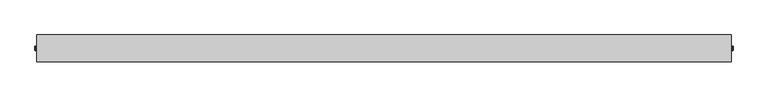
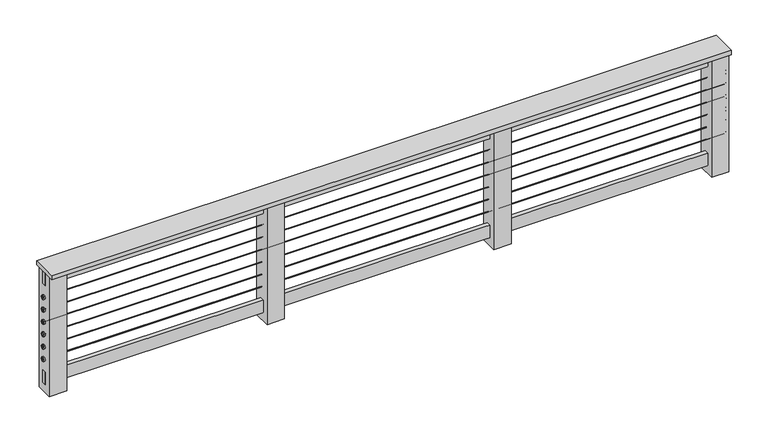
"""IFC4 building model written with IfcOpenShell, lengths in millimetres: railing geometry, HandiSwage Cable Railing System Flat."""

import ifcopenshell
import ifcopenshell.guid

model = None  # the IFC model being written
_history = None  # IfcOwnerHistory: only IFC2X3 demands one
_inside = {}  # id of a spatial element -> (the spatial element, [elements in it])
_under = {}  # id of a project, library or spatial element -> (it, [spatial elements below it])
_declared = {}  # id of a project -> (the project, [libraries it declares])
_typed = {}  # id of a type object -> (the type object, [elements of that type])
_made_of = {}  # id of a material, layer set ... -> (it, [elements and type objects made of it])


def new_model(schema):
    """Start an empty IFC model of exactly this schema.

    Asked for "IFC4X3", IfcOpenShell would pick the latest addendum, in which some entities
    have other attributes; the version numbers below select the first issue.
    IFC2X3 requires an IfcOwnerHistory on every rooted entity: one is made here for all.
    """
    global model, _history
    if schema == "IFC4X3":
        model = ifcopenshell.file(schema_version=(4, 3, 0, 0))
    else:
        model = ifcopenshell.file(schema=schema)
    _inside.clear()
    _under.clear()
    _declared.clear()
    _typed.clear()
    _made_of.clear()
    _history = None
    if model.schema == "IFC2X3":
        org = make("IfcOrganization", Name="unknown")
        user = make(
            "IfcPersonAndOrganization",
            ThePerson=make("IfcPerson", FamilyName="unknown"),
            TheOrganization=org,
        )
        app = make(
            "IfcApplication",
            ApplicationDeveloper=org,
            Version="unknown",
            ApplicationFullName="unknown",
            ApplicationIdentifier="unknown",
        )
        _history = make(
            "IfcOwnerHistory",
            OwningUser=user,
            OwningApplication=app,
            ChangeAction="ADDED",
            CreationDate=0,
        )
    return model


def make(cls, **values):
    """One entity of the class cls with the attributes given. An attribute that is None is left unset."""
    return model.create_entity(
        cls, **{name: value for name, value in values.items() if value is not None}
    )


def rooted(cls, **values):
    """An entity with a GlobalId (a new one), such as an element, a storey or a relation."""
    return make(cls, GlobalId=ifcopenshell.guid.new(), OwnerHistory=_history, **values)


def si_unit(unit_type, name, prefix=None):
    """IfcSIUnit, for example si_unit("LENGTHUNIT", "METRE", prefix="MILLI")."""
    return make("IfcSIUnit", UnitType=unit_type, Prefix=prefix, Name=name)


def assignment(units):
    """IfcUnitAssignment: the units of a project."""
    return None if units is None else make("IfcUnitAssignment", Units=units)


def point(xyz):
    """IfcCartesianPoint."""
    return None if xyz is None else make("IfcCartesianPoint", Coordinates=xyz)


def direction(xyz):
    """IfcDirection."""
    return None if xyz is None else make("IfcDirection", DirectionRatios=xyz)


def frame(location, z_axis=None, x_axis=None):
    """IfcAxis2Placement3D, a coordinate frame: its origin and axes. An axis left out is left unset."""
    return make(
        "IfcAxis2Placement3D",
        Location=point(location),
        Axis=direction(z_axis),
        RefDirection=direction(x_axis),
    )


def frame_2d(location, x_axis=None):
    """IfcAxis2Placement2D, a coordinate frame in the plane: its origin and x axis."""
    return make(
        "IfcAxis2Placement2D", Location=point(location), RefDirection=direction(x_axis)
    )


def origin():
    """The frame at (0, 0, 0) with its axes left unset."""
    return frame((0.0, 0.0, 0.0))


def origin_with_axes():
    """The frame at (0, 0, 0) with the z axis (0, 0, 1) and the x axis (1, 0, 0) written out."""
    return frame((0.0, 0.0, 0.0), z_axis=(0.0, 0.0, 1.0), x_axis=(1.0, 0.0, 0.0))


def place(relative_to, where):
    """IfcLocalPlacement: puts the frame where relative to a parent placement (None: the world)."""
    return make(
        "IfcLocalPlacement", PlacementRelTo=relative_to, RelativePlacement=where
    )


def context(
    kind, dimensions, precision=None, world=None, true_north=None, identifier=None
):
    """IfcGeometricRepresentationContext, for example the 3D "Model" context."""
    return make(
        "IfcGeometricRepresentationContext",
        ContextIdentifier=identifier,
        ContextType=kind,
        CoordinateSpaceDimension=dimensions,
        Precision=precision,
        WorldCoordinateSystem=world,
        TrueNorth=true_north,
    )


def project(units=None, contexts=None):
    """IfcProject with its units and contexts."""
    return rooted(
        "IfcProject",
        Name="project",
        RepresentationContexts=contexts,
        UnitsInContext=assignment(units),
    )


def spatial(cls, under=None, at=None, **own):
    """A site, building, storey or space (cls), placed at a placement, below another one or the project."""
    s = rooted(cls, ObjectPlacement=at, **own)
    if under is not None:
        _under.setdefault(under.id(), (under, []))[1].append(s)
    return s


def polyline(points):
    """IfcPolyline through the points."""
    return make("IfcPolyline", Points=[point(p) for p in points])


def circle_curve(where, radius):
    """IfcCircle in the frame where."""
    return make("IfcCircle", Position=where, Radius=radius)


def ellipse_curve(where, semi_axis1, semi_axis2):
    """IfcEllipse in the frame where."""
    return make(
        "IfcEllipse", Position=where, SemiAxis1=semi_axis1, SemiAxis2=semi_axis2
    )


def trimmed(basis, trim1, trim2, sense, master):
    """IfcTrimmedCurve: the piece of a basis curve between two trims."""
    return make(
        "IfcTrimmedCurve",
        BasisCurve=basis,
        Trim1=trim1,
        Trim2=trim2,
        SenseAgreement=sense,
        MasterRepresentation=master,
    )


def segment(curve, same_sense, transition):
    """IfcCompositeCurveSegment."""
    return make(
        "IfcCompositeCurveSegment",
        Transition=transition,
        SameSense=same_sense,
        ParentCurve=curve,
    )


def composite_curve(segments, self_intersect=None):
    """IfcCompositeCurve: segments joined end to end."""
    return make("IfcCompositeCurve", Segments=segments, SelfIntersect=self_intersect)


def outline(outer, holes=None, kind="AREA"):
    """IfcArbitraryClosedProfileDef: a profile drawn as a closed curve; with holes, ...WithVoids."""
    if holes is None:
        return make("IfcArbitraryClosedProfileDef", ProfileType=kind, OuterCurve=outer)
    return make(
        "IfcArbitraryProfileDefWithVoids",
        ProfileType=kind,
        OuterCurve=outer,
        InnerCurves=holes,
    )


def extrude(swept, where, along, depth):
    """IfcExtrudedAreaSolid: the profile swept, set in the frame where, extruded along a direction by depth."""
    return make(
        "IfcExtrudedAreaSolid",
        SweptArea=swept,
        Position=where,
        ExtrudedDirection=direction(along),
        Depth=depth,
    )


def shape(context_of_items, identifier, shape_type, items):
    """IfcShapeRepresentation: the items that make up one representation, for example the "Body"."""
    return make(
        "IfcShapeRepresentation",
        ContextOfItems=context_of_items,
        RepresentationIdentifier=identifier,
        RepresentationType=shape_type,
        Items=items,
    )


def source(mapping_origin, context_of_items, identifier, shape_type, items):
    """IfcRepresentationMap: a shape defined once, which mapped items show again and again."""
    return make(
        "IfcRepresentationMap",
        MappingOrigin=mapping_origin,
        MappedRepresentation=shape(context_of_items, identifier, shape_type, items),
    )


def transform(
    local_origin,
    x_axis=None,
    y_axis=None,
    z_axis=None,
    scale=None,
    scale2=None,
    scale3=None,
    uniform=True,
):
    """IfcCartesianTransformationOperator3D, or its non-uniform kind. x_axis, y_axis, z_axis: its Axis1, 2, 3."""
    if uniform:
        return make(
            "IfcCartesianTransformationOperator3D",
            Axis1=direction(x_axis),
            Axis2=direction(y_axis),
            LocalOrigin=point(local_origin),
            Scale=scale,
            Axis3=direction(z_axis),
        )
    return make(
        "IfcCartesianTransformationOperator3DnonUniform",
        Axis1=direction(x_axis),
        Axis2=direction(y_axis),
        LocalOrigin=point(local_origin),
        Scale=scale,
        Axis3=direction(z_axis),
        Scale2=scale2,
        Scale3=scale3,
    )


def mapped(mapping_source, mapping_target):
    """IfcMappedItem: shows the shape of a source again, moved by a transform."""
    return make(
        "IfcMappedItem", MappingSource=mapping_source, MappingTarget=mapping_target
    )


def made_of(thing, what):
    """Note that an element or type object is made of a material, layer set ...; save() writes the relation."""
    if what is not None:
        _made_of.setdefault(what.id(), (what, []))[1].append(thing)
    return thing


def element(
    cls,
    number,
    at=None,
    inside=None,
    cuts=None,
    type_object=None,
    material=None,
    context=None,
    identifier="Body",
    shape_type=None,
    held_by="IfcProductDefinitionShape",
    body=None,
    shapes=None,
    **own,
):
    """One element of the class cls, such as IfcWall. Its Tag is "e" and its number.

    at: its placement. inside: the storey or other place that contains it. cuts: it is an
    opening in that element (IfcRelVoidsElement). A single representation is given by context,
    identifier, shape_type and body (its items); several are given by shapes. held_by: the class
    of the entity that holds the representations. save() writes the other relations.
    """
    e = rooted(cls, Tag="e%d" % number, ObjectPlacement=at, **own)
    if body is not None:
        shapes = [shape(context, identifier, shape_type, body)]
    if shapes is not None:
        e.Representation = make(held_by, Representations=shapes)
    if inside is not None:
        _inside.setdefault(inside.id(), (inside, []))[1].append(e)
    if cuts is not None:
        rooted(
            "IfcRelVoidsElement", RelatingBuildingElement=cuts, RelatedOpeningElement=e
        )
    if type_object is not None:
        _typed.setdefault(type_object.id(), (type_object, []))[1].append(e)
    return made_of(e, material)


def aggregate(whole, parts):
    """IfcRelAggregates: a whole, such as a stair, and the parts it consists of."""
    return rooted("IfcRelAggregates", RelatingObject=whole, RelatedObjects=parts)


def save(model, path):
    """Write the relations noted so far, then the file.

    IfcRelAggregates (storeys below a building ...), IfcRelContainedInSpatialStructure (elements
    in a storey), IfcRelDefinesByType, IfcRelAssociatesMaterial and IfcRelDeclares: one each for
    every whole, place, type object, material and project.
    """
    for whole, parts in _under.values():
        aggregate(whole, parts)
    for where, things in _inside.values():
        rooted(
            "IfcRelContainedInSpatialStructure",
            RelatedElements=things,
            RelatingStructure=where,
        )
    for kind, things in _typed.values():
        rooted("IfcRelDefinesByType", RelatedObjects=things, RelatingType=kind)
    for what, things in _made_of.values():
        rooted("IfcRelAssociatesMaterial", RelatedObjects=things, RelatingMaterial=what)
    for by, libraries in _declared.values():
        rooted("IfcRelDeclares", RelatingContext=by, RelatedDefinitions=libraries)
    model.write(path)


def plane_surface(at):
    """IfcPlane: the flat surface through the origin of the frame at, square to its z axis."""
    return make("IfcPlane", Position=at)


def cylinder_surface(at, radius):
    """IfcCylindricalSurface: all points at the distance radius from the z axis of the frame at."""
    return make("IfcCylindricalSurface", Position=at, Radius=radius)


def revolved_surface(curve, axis_point, axis_direction):
    """IfcSurfaceOfRevolution: the curve turned about the line through axis_point along axis_direction."""
    return make(
        "IfcSurfaceOfRevolution",
        SweptCurve=make("IfcArbitraryOpenProfileDef", ProfileType="CURVE", Curve=curve),
        AxisPosition=make("IfcAxis1Placement", Location=point(axis_point), Axis=direction(axis_direction)),
    )


def advanced_brep(points, edges, surfaces, faces):
    """IfcAdvancedBrep: a solid bounded by faces that lie on surfaces and meet in shared edges.

    An edge is (start, end): straight between two places in points (the first is 0);
    or (start, end, curve); or (start, end, curve, False) where it runs against its curve.
    A face is (place in surfaces, loops), or (place, loops, False) where it looks against
    its surface's normal. A loop lists edges by number (the first is 1), with a minus sign
    where the edge is run from its end to its start. The first loop is the outer one.
    """
    corners = [point(p) for p in points]
    vertices = [make("IfcVertexPoint", VertexGeometry=c) for c in corners]
    made = []
    for start, end, *more in edges:
        made.append(
            make(
                "IfcEdgeCurve",
                EdgeStart=vertices[start],
                EdgeEnd=vertices[end],
                EdgeGeometry=more[0] if more else make("IfcPolyline", Points=[corners[start], corners[end]]),
                SameSense=more[1] if len(more) > 1 else True,
            )
        )
    hull = []
    for where, loops, *sense in faces:
        bounds = []
        for j, loop in enumerate(loops):
            ring = [make("IfcOrientedEdge", EdgeElement=made[abs(k) - 1], Orientation=k > 0) for k in loop]
            bounds.append(
                make(
                    "IfcFaceOuterBound" if j == 0 else "IfcFaceBound",
                    Bound=make("IfcEdgeLoop", EdgeList=ring),
                    Orientation=True,
                )
            )
        hull.append(make("IfcAdvancedFace", Bounds=bounds, FaceSurface=surfaces[where], SameSense=sense[0] if sense else True))
    return make("IfcAdvancedBrep", Outer=make("IfcClosedShell", CfsFaces=hull))


def railing_a0584a1e(model_context):
    return source(origin(), model_context, "Body", "SolidModel", [
        extrude(outline(polyline([(-7619.7788687, -3155.4327249), (-7619.7788687, -3003.0327249), (-3657.3788687, -3003.0327249), (-3657.3788687, -3155.4327249), (-7619.7788687, -3155.4327249)])), frame((0.0, 0.0, 736.6), z_axis=(0.0, 0.0, 1.0), x_axis=(1.0, 0.0, 0.0)), (0.0, 0.0, 1.0), 25.4),
        extrude(outline(polyline([(-7619.7788687, -3091.9327249), (-7619.7788687, -3066.5327249), (-3657.3788687, -3066.5327249), (-3657.3788687, -3091.9327249), (-7619.7788687, -3091.9327249)])), frame((0.0, 0.0, 660.4), z_axis=(0.0, 0.0, 1.0), x_axis=(1.0, 0.0, 0.0)), (0.0, 0.0, 1.0), 76.2),
        extrude(outline(composite_curve([segment(trimmed(circle_curve(frame_2d((-3079.2327249, 584.2)), 1.5379197), [point((-3077.6948051, 584.2))], [point((-3080.7706446, 584.2))], False, "CARTESIAN"), True, "CONTINUOUS"), segment(trimmed(circle_curve(frame_2d((-3079.2327249, 584.2)), 1.5379197), [point((-3080.7706446, 584.2))], [point((-3077.6948051, 584.2))], False, "CARTESIAN"), True, "CONTINUOUS")], self_intersect=False)), frame((-7619.7788687, 0.0, 0.0), z_axis=(1.0, 0.0, 0.0), x_axis=(0.0, 1.0, 0.0)), (0.0, 0.0, 1.0), 3962.4),
        extrude(outline(composite_curve([segment(trimmed(circle_curve(frame_2d((-3079.2327249, 508.0)), 1.5379197), [point((-3077.6948051, 508.0))], [point((-3080.7706446, 508.0))], False, "CARTESIAN"), True, "CONTINUOUS"), segment(trimmed(circle_curve(frame_2d((-3079.2327249, 508.0)), 1.5379197), [point((-3080.7706446, 508.0))], [point((-3077.6948051, 508.0))], False, "CARTESIAN"), True, "CONTINUOUS")], self_intersect=False)), frame((-7619.7788687, 0.0, 0.0), z_axis=(1.0, 0.0, 0.0), x_axis=(0.0, 1.0, 0.0)), (0.0, 0.0, 1.0), 3962.4),
        extrude(outline(composite_curve([segment(trimmed(circle_curve(frame_2d((-3079.2327249, 431.8)), 1.5379197), [point((-3077.6948051, 431.8))], [point((-3080.7706446, 431.8))], False, "CARTESIAN"), True, "CONTINUOUS"), segment(trimmed(circle_curve(frame_2d((-3079.2327249, 431.8)), 1.5379197), [point((-3080.7706446, 431.8))], [point((-3077.6948051, 431.8))], False, "CARTESIAN"), True, "CONTINUOUS")], self_intersect=False)), frame((-7619.7788687, 0.0, 0.0), z_axis=(1.0, 0.0, 0.0), x_axis=(0.0, 1.0, 0.0)), (0.0, 0.0, 1.0), 3962.4),
        extrude(outline(composite_curve([segment(trimmed(circle_curve(frame_2d((-3079.2327249, 355.6)), 1.5379197), [point((-3077.6948051, 355.6))], [point((-3080.7706446, 355.6))], False, "CARTESIAN"), True, "CONTINUOUS"), segment(trimmed(circle_curve(frame_2d((-3079.2327249, 355.6)), 1.5379197), [point((-3080.7706446, 355.6))], [point((-3077.6948051, 355.6))], False, "CARTESIAN"), True, "CONTINUOUS")], self_intersect=False)), frame((-7619.7788687, 0.0, 0.0), z_axis=(1.0, 0.0, 0.0), x_axis=(0.0, 1.0, 0.0)), (0.0, 0.0, 1.0), 3962.4),
        extrude(outline(composite_curve([segment(trimmed(circle_curve(frame_2d((-3079.2327249, 279.4)), 1.5379197), [point((-3077.6948051, 279.4))], [point((-3080.7706446, 279.4))], False, "CARTESIAN"), True, "CONTINUOUS"), segment(trimmed(circle_curve(frame_2d((-3079.2327249, 279.4)), 1.5379197), [point((-3080.7706446, 279.4))], [point((-3077.6948051, 279.4))], False, "CARTESIAN"), True, "CONTINUOUS")], self_intersect=False)), frame((-7619.7788687, 0.0, 0.0), z_axis=(1.0, 0.0, 0.0), x_axis=(0.0, 1.0, 0.0)), (0.0, 0.0, 1.0), 3962.4),
        extrude(outline(composite_curve([segment(trimmed(circle_curve(frame_2d((-3079.2327249, 203.2)), 1.5379197), [point((-3077.6948051, 203.2))], [point((-3080.7706446, 203.2))], False, "CARTESIAN"), True, "CONTINUOUS"), segment(trimmed(circle_curve(frame_2d((-3079.2327249, 203.2)), 1.5379197), [point((-3080.7706446, 203.2))], [point((-3077.6948051, 203.2))], False, "CARTESIAN"), True, "CONTINUOUS")], self_intersect=False)), frame((-7619.7788687, 0.0, 0.0), z_axis=(1.0, 0.0, 0.0), x_axis=(0.0, 1.0, 0.0)), (0.0, 0.0, 1.0), 3962.4),
        extrude(outline(polyline([(-7619.7788687, -3091.9327249), (-7619.7788687, -3066.5327249), (-3657.3788687, -3066.5327249), (-3657.3788687, -3091.9327249), (-7619.7788687, -3091.9327249)])), frame((0.0, 0.0, 50.8), z_axis=(0.0, 0.0, 1.0), x_axis=(1.0, 0.0, 0.0)), (0.0, 0.0, 1.0), 76.2),
        extrude(outline(polyline([(-5028.9788687, -3130.0327249), (-5028.9788687, -3028.4327249), (-4927.3788687, -3028.4327249), (-4927.3788687, -3130.0327249), (-5028.9788687, -3130.0327249)])), origin_with_axes(), (0.0, 0.0, 1.0), 736.6),
        extrude(outline(polyline([(-6349.7788687, -3130.0327249), (-6349.7788687, -3028.4327249), (-6248.1788687, -3028.4327249), (-6248.1788687, -3130.0327249), (-6349.7788687, -3130.0327249)])), origin_with_axes(), (0.0, 0.0, 1.0), 736.6),
        advanced_brep(
        [(-3657.3788687, -3079.2327249, 279.0980455), (-3657.3788687, -3079.2327249, 266.3980455), (-3657.3788687, -3079.2327249, 291.7980455), (-3647.8538687, -3079.2327249, 269.5730455), (-3647.8538687, -3079.2327249, 279.0980455), (-3647.8538687, -3079.2327249, 288.6230455), (-3651.0288687, -3079.2327249, 266.3980455), (-3651.0288687, -3079.2327249, 291.7980455)],
        [
            (0, 1),
            (1, 2, circle_curve(frame((-3657.3788687, -3079.2327249, 279.0980455), z_axis=(-1.0, 0.0, 0.0), x_axis=(0.0, 0.0, 1.0)), 12.7)),
            (2, 0),
            (2, 1, circle_curve(frame((-3657.3788687, -3079.2327249, 279.0980455), z_axis=(-1.0, 0.0, 0.0), x_axis=(0.0, 0.0, 1.0)), 12.7)),
            (3, 4),
            (4, 5),
            (5, 3, circle_curve(frame((-3647.8538687, -3079.2327249, 279.0980455), z_axis=(1.0, 0.0, 0.0), x_axis=(0.0, 0.0, 1.0)), 9.525)),
            (3, 5, circle_curve(frame((-3647.8538687, -3079.2327249, 279.0980455), z_axis=(1.0, 0.0, 0.0), x_axis=(0.0, 0.0, 1.0)), 9.525)),
            (1, 6),
            (6, 7, circle_curve(frame((-3651.0288687, -3079.2327249, 279.0980455), z_axis=(-1.0, 0.0, 0.0), x_axis=(0.0, 0.0, 1.0)), 12.7)),
            (7, 2),
            (7, 6, circle_curve(frame((-3651.0288687, -3079.2327249, 279.0980455), z_axis=(-1.0, 0.0, 0.0), x_axis=(0.0, 0.0, 1.0)), 12.7)),
            (6, 3, circle_curve(frame((-3651.0288687, -3079.2327249, 269.5730455), z_axis=(0.0, -1.0, 0.0), x_axis=(1.0, 0.0, 0.0)), 3.175)),
            (5, 7, circle_curve(frame((-3651.0288687, -3079.2327249, 288.6230455), z_axis=(0.0, -1.0, 0.0), x_axis=(1.0, 0.0, 0.0)), 3.175)),
        ],
        [
            plane_surface(frame((-3657.3788687, -3079.2327249, 279.0980455), z_axis=(-1.0, 0.0, 0.0), x_axis=(0.0, 0.0, 1.0))),
            plane_surface(frame((-3647.8538687, -3079.2327249, 279.0980455), z_axis=(1.0, 0.0, 0.0), x_axis=(0.0, 0.0, 1.0))),
            cylinder_surface(frame((-3657.3788687, -3079.2327249, 279.0980455), z_axis=(-1.0, 0.0, 0.0), x_axis=(0.0, 0.0, 1.0)), 12.7),
            revolved_surface(trimmed(ellipse_curve(frame((-3651.0288687, -3079.2327249, 288.6230455), z_axis=(0.0, -1.0, 0.0), x_axis=(1.0, 0.0, 0.0)), 3.175, 3.175), [point((-3647.8538687, -3079.2327249, 288.6230455))], [point((-3651.0288687, -3079.2327249, 291.7980455))], True, "CARTESIAN"), (-3657.3788687, -3079.2327249, 279.0980455), (-1.0, 0.0, 0.0)),
        ],
        [
            (0, [[1, 2, 3]]),
            (0, [[-3, 4, -1]]),
            (1, [[5, 6, 7]]),
            (1, [[-6, -5, 8]]),
            (2, [[9, 10, 11, -2]]),
            (2, [[-11, 12, -9, -4]]),
            (3, [[13, -7, 14, -10]]),
            (3, [[-14, -8, -13, -12]]),
        ],
    ),
        advanced_brep(
        [(-3657.3788687, -3079.2327249, 355.2980455), (-3657.3788687, -3079.2327249, 342.5980455), (-3657.3788687, -3079.2327249, 367.9980455), (-3647.8538687, -3079.2327249, 345.7730455), (-3647.8538687, -3079.2327249, 355.2980455), (-3647.8538687, -3079.2327249, 364.8230455), (-3651.0288687, -3079.2327249, 342.5980455), (-3651.0288687, -3079.2327249, 367.9980455)],
        [
            (0, 1),
            (1, 2, circle_curve(frame((-3657.3788687, -3079.2327249, 355.2980455), z_axis=(-1.0, 0.0, 0.0), x_axis=(0.0, 0.0, 1.0)), 12.7)),
            (2, 0),
            (2, 1, circle_curve(frame((-3657.3788687, -3079.2327249, 355.2980455), z_axis=(-1.0, 0.0, 0.0), x_axis=(0.0, 0.0, 1.0)), 12.7)),
            (3, 4),
            (4, 5),
            (5, 3, circle_curve(frame((-3647.8538687, -3079.2327249, 355.2980455), z_axis=(1.0, 0.0, 0.0), x_axis=(0.0, 0.0, 1.0)), 9.525)),
            (3, 5, circle_curve(frame((-3647.8538687, -3079.2327249, 355.2980455), z_axis=(1.0, 0.0, 0.0), x_axis=(0.0, 0.0, 1.0)), 9.525)),
            (1, 6),
            (6, 7, circle_curve(frame((-3651.0288687, -3079.2327249, 355.2980455), z_axis=(-1.0, 0.0, 0.0), x_axis=(0.0, 0.0, 1.0)), 12.7)),
            (7, 2),
            (7, 6, circle_curve(frame((-3651.0288687, -3079.2327249, 355.2980455), z_axis=(-1.0, 0.0, 0.0), x_axis=(0.0, 0.0, 1.0)), 12.7)),
            (6, 3, circle_curve(frame((-3651.0288687, -3079.2327249, 345.7730455), z_axis=(0.0, -1.0, 0.0), x_axis=(1.0, 0.0, 0.0)), 3.175)),
            (5, 7, circle_curve(frame((-3651.0288687, -3079.2327249, 364.8230455), z_axis=(0.0, -1.0, 0.0), x_axis=(1.0, 0.0, 0.0)), 3.175)),
        ],
        [
            plane_surface(frame((-3657.3788687, -3079.2327249, 355.2980455), z_axis=(-1.0, 0.0, 0.0), x_axis=(0.0, 0.0, 1.0))),
            plane_surface(frame((-3647.8538687, -3079.2327249, 355.2980455), z_axis=(1.0, 0.0, 0.0), x_axis=(0.0, 0.0, 1.0))),
            cylinder_surface(frame((-3657.3788687, -3079.2327249, 355.2980455), z_axis=(-1.0, 0.0, 0.0), x_axis=(0.0, 0.0, 1.0)), 12.7),
            revolved_surface(trimmed(ellipse_curve(frame((-3651.0288687, -3079.2327249, 364.8230455), z_axis=(0.0, -1.0, 0.0), x_axis=(1.0, 0.0, 0.0)), 3.175, 3.175), [point((-3647.8538687, -3079.2327249, 364.8230455))], [point((-3651.0288687, -3079.2327249, 367.9980455))], True, "CARTESIAN"), (-3657.3788687, -3079.2327249, 355.2980455), (-1.0, 0.0, 0.0)),
        ],
        [
            (0, [[1, 2, 3]]),
            (0, [[-3, 4, -1]]),
            (1, [[5, 6, 7]]),
            (1, [[-6, -5, 8]]),
            (2, [[9, 10, 11, -2]]),
            (2, [[-11, 12, -9, -4]]),
            (3, [[13, -7, 14, -10]]),
            (3, [[-14, -8, -13, -12]]),
        ],
    ),
        advanced_brep(
        [(-3657.3788687, -3079.2327249, 431.4980455), (-3657.3788687, -3079.2327249, 418.7980455), (-3657.3788687, -3079.2327249, 444.1980455), (-3647.8538687, -3079.2327249, 421.9730455), (-3647.8538687, -3079.2327249, 431.4980455), (-3647.8538687, -3079.2327249, 441.0230455), (-3651.0288687, -3079.2327249, 418.7980455), (-3651.0288687, -3079.2327249, 444.1980455)],
        [
            (0, 1),
            (1, 2, circle_curve(frame((-3657.3788687, -3079.2327249, 431.4980455), z_axis=(-1.0, 0.0, 0.0), x_axis=(0.0, 0.0, 1.0)), 12.7)),
            (2, 0),
            (2, 1, circle_curve(frame((-3657.3788687, -3079.2327249, 431.4980455), z_axis=(-1.0, 0.0, 0.0), x_axis=(0.0, 0.0, 1.0)), 12.7)),
            (3, 4),
            (4, 5),
            (5, 3, circle_curve(frame((-3647.8538687, -3079.2327249, 431.4980455), z_axis=(1.0, 0.0, 0.0), x_axis=(0.0, 0.0, 1.0)), 9.525)),
            (3, 5, circle_curve(frame((-3647.8538687, -3079.2327249, 431.4980455), z_axis=(1.0, 0.0, 0.0), x_axis=(0.0, 0.0, 1.0)), 9.525)),
            (1, 6),
            (6, 7, circle_curve(frame((-3651.0288687, -3079.2327249, 431.4980455), z_axis=(-1.0, 0.0, 0.0), x_axis=(0.0, 0.0, 1.0)), 12.7)),
            (7, 2),
            (7, 6, circle_curve(frame((-3651.0288687, -3079.2327249, 431.4980455), z_axis=(-1.0, 0.0, 0.0), x_axis=(0.0, 0.0, 1.0)), 12.7)),
            (6, 3, circle_curve(frame((-3651.0288687, -3079.2327249, 421.9730455), z_axis=(0.0, -1.0, 0.0), x_axis=(1.0, 0.0, 0.0)), 3.175)),
            (5, 7, circle_curve(frame((-3651.0288687, -3079.2327249, 441.0230455), z_axis=(0.0, -1.0, 0.0), x_axis=(1.0, 0.0, 0.0)), 3.175)),
        ],
        [
            plane_surface(frame((-3657.3788687, -3079.2327249, 431.4980455), z_axis=(-1.0, 0.0, 0.0), x_axis=(0.0, 0.0, 1.0))),
            plane_surface(frame((-3647.8538687, -3079.2327249, 431.4980455), z_axis=(1.0, 0.0, 0.0), x_axis=(0.0, 0.0, 1.0))),
            cylinder_surface(frame((-3657.3788687, -3079.2327249, 431.4980455), z_axis=(-1.0, 0.0, 0.0), x_axis=(0.0, 0.0, 1.0)), 12.7),
            revolved_surface(trimmed(ellipse_curve(frame((-3651.0288687, -3079.2327249, 441.0230455), z_axis=(0.0, -1.0, 0.0), x_axis=(1.0, 0.0, 0.0)), 3.175, 3.175), [point((-3647.8538687, -3079.2327249, 441.0230455))], [point((-3651.0288687, -3079.2327249, 444.1980455))], True, "CARTESIAN"), (-3657.3788687, -3079.2327249, 431.4980455), (-1.0, 0.0, 0.0)),
        ],
        [
            (0, [[1, 2, 3]]),
            (0, [[-3, 4, -1]]),
            (1, [[5, 6, 7]]),
            (1, [[-6, -5, 8]]),
            (2, [[9, 10, 11, -2]]),
            (2, [[-11, 12, -9, -4]]),
            (3, [[13, -7, 14, -10]]),
            (3, [[-14, -8, -13, -12]]),
        ],
    ),
        advanced_brep(
        [(-3657.3788687, -3079.2327249, 507.6980455), (-3657.3788687, -3079.2327249, 494.9980455), (-3657.3788687, -3079.2327249, 520.3980455), (-3647.8538687, -3079.2327249, 498.1730455), (-3647.8538687, -3079.2327249, 507.6980455), (-3647.8538687, -3079.2327249, 517.2230455), (-3651.0288687, -3079.2327249, 494.9980455), (-3651.0288687, -3079.2327249, 520.3980455)],
        [
            (0, 1),
            (1, 2, circle_curve(frame((-3657.3788687, -3079.2327249, 507.6980455), z_axis=(-1.0, 0.0, 0.0), x_axis=(0.0, 0.0, 1.0)), 12.7)),
            (2, 0),
            (2, 1, circle_curve(frame((-3657.3788687, -3079.2327249, 507.6980455), z_axis=(-1.0, 0.0, 0.0), x_axis=(0.0, 0.0, 1.0)), 12.7)),
            (3, 4),
            (4, 5),
            (5, 3, circle_curve(frame((-3647.8538687, -3079.2327249, 507.6980455), z_axis=(1.0, 0.0, 0.0), x_axis=(0.0, 0.0, 1.0)), 9.525)),
            (3, 5, circle_curve(frame((-3647.8538687, -3079.2327249, 507.6980455), z_axis=(1.0, 0.0, 0.0), x_axis=(0.0, 0.0, 1.0)), 9.525)),
            (1, 6),
            (6, 7, circle_curve(frame((-3651.0288687, -3079.2327249, 507.6980455), z_axis=(-1.0, 0.0, 0.0), x_axis=(0.0, 0.0, 1.0)), 12.7)),
            (7, 2),
            (7, 6, circle_curve(frame((-3651.0288687, -3079.2327249, 507.6980455), z_axis=(-1.0, 0.0, 0.0), x_axis=(0.0, 0.0, 1.0)), 12.7)),
            (6, 3, circle_curve(frame((-3651.0288687, -3079.2327249, 498.1730455), z_axis=(0.0, -1.0, 0.0), x_axis=(1.0, 0.0, 0.0)), 3.175)),
            (5, 7, circle_curve(frame((-3651.0288687, -3079.2327249, 517.2230455), z_axis=(0.0, -1.0, 0.0), x_axis=(1.0, 0.0, 0.0)), 3.175)),
        ],
        [
            plane_surface(frame((-3657.3788687, -3079.2327249, 507.6980455), z_axis=(-1.0, 0.0, 0.0), x_axis=(0.0, 0.0, 1.0))),
            plane_surface(frame((-3647.8538687, -3079.2327249, 507.6980455), z_axis=(1.0, 0.0, 0.0), x_axis=(0.0, 0.0, 1.0))),
            cylinder_surface(frame((-3657.3788687, -3079.2327249, 507.6980455), z_axis=(-1.0, 0.0, 0.0), x_axis=(0.0, 0.0, 1.0)), 12.7),
            revolved_surface(trimmed(ellipse_curve(frame((-3651.0288687, -3079.2327249, 517.2230455), z_axis=(0.0, -1.0, 0.0), x_axis=(1.0, 0.0, 0.0)), 3.175, 3.175), [point((-3647.8538687, -3079.2327249, 517.2230455))], [point((-3651.0288687, -3079.2327249, 520.3980455))], True, "CARTESIAN"), (-3657.3788687, -3079.2327249, 507.6980455), (-1.0, 0.0, 0.0)),
        ],
        [
            (0, [[1, 2, 3]]),
            (0, [[-3, 4, -1]]),
            (1, [[5, 6, 7]]),
            (1, [[-6, -5, 8]]),
            (2, [[9, 10, 11, -2]]),
            (2, [[-11, 12, -9, -4]]),
            (3, [[13, -7, 14, -10]]),
            (3, [[-14, -8, -13, -12]]),
        ],
    ),
        advanced_brep(
        [(-3657.3788687, -3079.2327249, 583.8980455), (-3657.3788687, -3079.2327249, 571.1980455), (-3657.3788687, -3079.2327249, 596.5980455), (-3647.8538687, -3079.2327249, 574.3730455), (-3647.8538687, -3079.2327249, 583.8980455), (-3647.8538687, -3079.2327249, 593.4230455), (-3651.0288687, -3079.2327249, 571.1980455), (-3651.0288687, -3079.2327249, 596.5980455)],
        [
            (0, 1),
            (1, 2, circle_curve(frame((-3657.3788687, -3079.2327249, 583.8980455), z_axis=(-1.0, 0.0, 0.0), x_axis=(0.0, 0.0, 1.0)), 12.7)),
            (2, 0),
            (2, 1, circle_curve(frame((-3657.3788687, -3079.2327249, 583.8980455), z_axis=(-1.0, 0.0, 0.0), x_axis=(0.0, 0.0, 1.0)), 12.7)),
            (3, 4),
            (4, 5),
            (5, 3, circle_curve(frame((-3647.8538687, -3079.2327249, 583.8980455), z_axis=(1.0, 0.0, 0.0), x_axis=(0.0, 0.0, 1.0)), 9.525)),
            (3, 5, circle_curve(frame((-3647.8538687, -3079.2327249, 583.8980455), z_axis=(1.0, 0.0, 0.0), x_axis=(0.0, 0.0, 1.0)), 9.525)),
            (1, 6),
            (6, 7, circle_curve(frame((-3651.0288687, -3079.2327249, 583.8980455), z_axis=(-1.0, 0.0, 0.0), x_axis=(0.0, 0.0, 1.0)), 12.7)),
            (7, 2),
            (7, 6, circle_curve(frame((-3651.0288687, -3079.2327249, 583.8980455), z_axis=(-1.0, 0.0, 0.0), x_axis=(0.0, 0.0, 1.0)), 12.7)),
            (6, 3, circle_curve(frame((-3651.0288687, -3079.2327249, 574.3730455), z_axis=(0.0, -1.0, 0.0), x_axis=(1.0, 0.0, 0.0)), 3.175)),
            (5, 7, circle_curve(frame((-3651.0288687, -3079.2327249, 593.4230455), z_axis=(0.0, -1.0, 0.0), x_axis=(1.0, 0.0, 0.0)), 3.175)),
        ],
        [
            plane_surface(frame((-3657.3788687, -3079.2327249, 583.8980455), z_axis=(-1.0, 0.0, 0.0), x_axis=(0.0, 0.0, 1.0))),
            plane_surface(frame((-3647.8538687, -3079.2327249, 583.8980455), z_axis=(1.0, 0.0, 0.0), x_axis=(0.0, 0.0, 1.0))),
            cylinder_surface(frame((-3657.3788687, -3079.2327249, 583.8980455), z_axis=(-1.0, 0.0, 0.0), x_axis=(0.0, 0.0, 1.0)), 12.7),
            revolved_surface(trimmed(ellipse_curve(frame((-3651.0288687, -3079.2327249, 593.4230455), z_axis=(0.0, -1.0, 0.0), x_axis=(1.0, 0.0, 0.0)), 3.175, 3.175), [point((-3647.8538687, -3079.2327249, 593.4230455))], [point((-3651.0288687, -3079.2327249, 596.5980455))], True, "CARTESIAN"), (-3657.3788687, -3079.2327249, 583.8980455), (-1.0, 0.0, 0.0)),
        ],
        [
            (0, [[1, 2, 3]]),
            (0, [[-3, 4, -1]]),
            (1, [[5, 6, 7]]),
            (1, [[-6, -5, 8]]),
            (2, [[9, 10, 11, -2]]),
            (2, [[-11, 12, -9, -4]]),
            (3, [[13, -7, 14, -10]]),
            (3, [[-14, -8, -13, -12]]),
        ],
    ),
        advanced_brep(
        [(-3657.3788687, -3079.2327249, 202.8980455), (-3657.3788687, -3079.2327249, 190.1980455), (-3657.3788687, -3079.2327249, 215.5980455), (-3647.8538687, -3079.2327249, 193.3730455), (-3647.8538687, -3079.2327249, 202.8980455), (-3647.8538687, -3079.2327249, 212.4230455), (-3651.0288687, -3079.2327249, 190.1980455), (-3651.0288687, -3079.2327249, 215.5980455)],
        [
            (0, 1),
            (1, 2, circle_curve(frame((-3657.3788687, -3079.2327249, 202.8980455), z_axis=(-1.0, 0.0, 0.0), x_axis=(0.0, 0.0, 1.0)), 12.7)),
            (2, 0),
            (2, 1, circle_curve(frame((-3657.3788687, -3079.2327249, 202.8980455), z_axis=(-1.0, 0.0, 0.0), x_axis=(0.0, 0.0, 1.0)), 12.7)),
            (3, 4),
            (4, 5),
            (5, 3, circle_curve(frame((-3647.8538687, -3079.2327249, 202.8980455), z_axis=(1.0, 0.0, 0.0), x_axis=(0.0, 0.0, 1.0)), 9.525)),
            (3, 5, circle_curve(frame((-3647.8538687, -3079.2327249, 202.8980455), z_axis=(1.0, 0.0, 0.0), x_axis=(0.0, 0.0, 1.0)), 9.525)),
            (1, 6),
            (6, 7, circle_curve(frame((-3651.0288687, -3079.2327249, 202.8980455), z_axis=(-1.0, 0.0, 0.0), x_axis=(0.0, 0.0, 1.0)), 12.7)),
            (7, 2),
            (7, 6, circle_curve(frame((-3651.0288687, -3079.2327249, 202.8980455), z_axis=(-1.0, 0.0, 0.0), x_axis=(0.0, 0.0, 1.0)), 12.7)),
            (6, 3, circle_curve(frame((-3651.0288687, -3079.2327249, 193.3730455), z_axis=(0.0, -1.0, 0.0), x_axis=(1.0, 0.0, 0.0)), 3.175)),
            (5, 7, circle_curve(frame((-3651.0288687, -3079.2327249, 212.4230455), z_axis=(0.0, -1.0, 0.0), x_axis=(1.0, 0.0, 0.0)), 3.175)),
        ],
        [
            plane_surface(frame((-3657.3788687, -3079.2327249, 202.8980455), z_axis=(-1.0, 0.0, 0.0), x_axis=(0.0, 0.0, 1.0))),
            plane_surface(frame((-3647.8538687, -3079.2327249, 202.8980455), z_axis=(1.0, 0.0, 0.0), x_axis=(0.0, 0.0, 1.0))),
            cylinder_surface(frame((-3657.3788687, -3079.2327249, 202.8980455), z_axis=(-1.0, 0.0, 0.0), x_axis=(0.0, 0.0, 1.0)), 12.7),
            revolved_surface(trimmed(ellipse_curve(frame((-3651.0288687, -3079.2327249, 212.4230455), z_axis=(0.0, -1.0, 0.0), x_axis=(1.0, 0.0, 0.0)), 3.175, 3.175), [point((-3647.8538687, -3079.2327249, 212.4230455))], [point((-3651.0288687, -3079.2327249, 215.5980455))], True, "CARTESIAN"), (-3657.3788687, -3079.2327249, 202.8980455), (-1.0, 0.0, 0.0)),
        ],
        [
            (0, [[1, 2, 3]]),
            (0, [[-3, 4, -1]]),
            (1, [[5, 6, 7]]),
            (1, [[-6, -5, 8]]),
            (2, [[9, 10, 11, -2]]),
            (2, [[-11, 12, -9, -4]]),
            (3, [[13, -7, 14, -10]]),
            (3, [[-14, -8, -13, -12]]),
        ],
    ),
        extrude(outline(polyline([(-3758.9788687, -3130.0327249), (-3758.9788687, -3028.4327249), (-3657.3788687, -3028.4327249), (-3657.3788687, -3130.0327249), (-3758.9788687, -3130.0327249)])), origin_with_axes(), (0.0, 0.0, 1.0), 736.6),
        advanced_brep(
        [(-7619.7788687, -3079.2327249, 279.3957018), (-7619.7788687, -3079.2327249, 292.0957018), (-7619.7788687, -3079.2327249, 266.6957018), (-7629.3038687, -3079.2327249, 269.9204941), (-7629.3038687, -3079.2327249, 288.8709095), (-7629.3038687, -3079.2327249, 279.3957018), (-7626.1288687, -3079.2327249, 292.0957018), (-7626.1288687, -3079.2327249, 266.6957018)],
        [
            (0, 1),
            (1, 2, circle_curve(frame((-7619.7788687, -3079.2327249, 279.3957018), z_axis=(1.0, 0.0, 0.0), x_axis=(0.0, 0.0, 1.0)), 12.7)),
            (2, 0),
            (2, 1, circle_curve(frame((-7619.7788687, -3079.2327249, 279.3957018), z_axis=(1.0, 0.0, 0.0), x_axis=(0.0, 0.0, 1.0)), 12.7)),
            (3, 4, circle_curve(frame((-7629.3038687, -3079.2327249, 279.3957018), z_axis=(-1.0, 0.0, 0.0), x_axis=(0.0, 0.0, 1.0)), 9.4752077)),
            (4, 5),
            (5, 3),
            (4, 3, circle_curve(frame((-7629.3038687, -3079.2327249, 279.3957018), z_axis=(-1.0, 0.0, 0.0), x_axis=(0.0, 0.0, 1.0)), 9.4752077)),
            (1, 6),
            (6, 7, circle_curve(frame((-7626.1288687, -3079.2327249, 279.3957018), z_axis=(1.0, 0.0, 0.0), x_axis=(0.0, 0.0, 1.0)), 12.7)),
            (7, 2),
            (7, 6, circle_curve(frame((-7626.1288687, -3079.2327249, 279.3957018), z_axis=(1.0, 0.0, 0.0), x_axis=(0.0, 0.0, 1.0)), 12.7)),
            (6, 4, circle_curve(frame((-7626.1288687, -3079.2327249, 288.8709095), z_axis=(0.0, -1.0, 0.0), x_axis=(-1.0, 0.0, 0.0)), 3.175)),
            (3, 7, circle_curve(frame((-7626.1288687, -3079.2327249, 269.9204941), z_axis=(0.0, -1.0, 0.0), x_axis=(-1.0, 0.0, 0.0)), 3.175)),
        ],
        [
            plane_surface(frame((-7619.7788687, -3079.2327249, 279.3957018), z_axis=(1.0, 0.0, 0.0), x_axis=(0.0, 0.0, 1.0))),
            plane_surface(frame((-7629.3038687, -3079.2327249, 279.3957018), z_axis=(-1.0, 0.0, 0.0), x_axis=(0.0, 0.0, 1.0))),
            cylinder_surface(frame((-7619.7788687, -3079.2327249, 279.3957018), z_axis=(1.0, 0.0, 0.0), x_axis=(0.0, 0.0, 1.0)), 12.7),
            revolved_surface(trimmed(ellipse_curve(frame((-7626.1288687, -3079.2327249, 288.8709095), z_axis=(0.0, 1.0, 0.0), x_axis=(-1.0, 0.0, 0.0)), 3.175, 3.175), [point((-7629.3038687, -3079.2327249, 288.8709095))], [point((-7626.1288687, -3079.2327249, 292.0459095))], True, "CARTESIAN"), (-7619.7788687, -3079.2327249, 279.3957018), (1.0, 0.0, 0.0)),
        ],
        [
            (0, [[1, 2, 3]]),
            (0, [[-3, 4, -1]]),
            (1, [[5, 6, 7]]),
            (1, [[8, -7, -6]]),
            (2, [[-2, 9, 10, 11]]),
            (2, [[-4, -11, 12, -9]]),
            (3, [[-10, 13, -5, 14]]),
            (3, [[-12, -14, -8, -13]]),
        ],
    ),
        advanced_brep(
        [(-7619.7788687, -3079.2327249, 355.5957018), (-7619.7788687, -3079.2327249, 368.2957018), (-7619.7788687, -3079.2327249, 342.8957018), (-7629.3038687, -3079.2327249, 346.1204941), (-7629.3038687, -3079.2327249, 365.0709095), (-7629.3038687, -3079.2327249, 355.5957018), (-7626.1288687, -3079.2327249, 368.2957018), (-7626.1288687, -3079.2327249, 342.8957018)],
        [
            (0, 1),
            (1, 2, circle_curve(frame((-7619.7788687, -3079.2327249, 355.5957018), z_axis=(1.0, 0.0, 0.0), x_axis=(0.0, 0.0, 1.0)), 12.7)),
            (2, 0),
            (2, 1, circle_curve(frame((-7619.7788687, -3079.2327249, 355.5957018), z_axis=(1.0, 0.0, 0.0), x_axis=(0.0, 0.0, 1.0)), 12.7)),
            (3, 4, circle_curve(frame((-7629.3038687, -3079.2327249, 355.5957018), z_axis=(-1.0, 0.0, 0.0), x_axis=(0.0, 0.0, 1.0)), 9.4752077)),
            (4, 5),
            (5, 3),
            (4, 3, circle_curve(frame((-7629.3038687, -3079.2327249, 355.5957018), z_axis=(-1.0, 0.0, 0.0), x_axis=(0.0, 0.0, 1.0)), 9.4752077)),
            (1, 6),
            (6, 7, circle_curve(frame((-7626.1288687, -3079.2327249, 355.5957018), z_axis=(1.0, 0.0, 0.0), x_axis=(0.0, 0.0, 1.0)), 12.7)),
            (7, 2),
            (7, 6, circle_curve(frame((-7626.1288687, -3079.2327249, 355.5957018), z_axis=(1.0, 0.0, 0.0), x_axis=(0.0, 0.0, 1.0)), 12.7)),
            (6, 4, circle_curve(frame((-7626.1288687, -3079.2327249, 365.0709095), z_axis=(0.0, -1.0, 0.0), x_axis=(-1.0, 0.0, 0.0)), 3.175)),
            (3, 7, circle_curve(frame((-7626.1288687, -3079.2327249, 346.1204941), z_axis=(0.0, -1.0, 0.0), x_axis=(-1.0, 0.0, 0.0)), 3.175)),
        ],
        [
            plane_surface(frame((-7619.7788687, -3079.2327249, 355.5957018), z_axis=(1.0, 0.0, 0.0), x_axis=(0.0, 0.0, 1.0))),
            plane_surface(frame((-7629.3038687, -3079.2327249, 355.5957018), z_axis=(-1.0, 0.0, 0.0), x_axis=(0.0, 0.0, 1.0))),
            cylinder_surface(frame((-7619.7788687, -3079.2327249, 355.5957018), z_axis=(1.0, 0.0, 0.0), x_axis=(0.0, 0.0, 1.0)), 12.7),
            revolved_surface(trimmed(ellipse_curve(frame((-7626.1288687, -3079.2327249, 365.0709095), z_axis=(0.0, 1.0, 0.0), x_axis=(-1.0, 0.0, 0.0)), 3.175, 3.175), [point((-7629.3038687, -3079.2327249, 365.0709095))], [point((-7626.1288687, -3079.2327249, 368.2459095))], True, "CARTESIAN"), (-7619.7788687, -3079.2327249, 355.5957018), (1.0, 0.0, 0.0)),
        ],
        [
            (0, [[1, 2, 3]]),
            (0, [[-3, 4, -1]]),
            (1, [[5, 6, 7]]),
            (1, [[8, -7, -6]]),
            (2, [[-2, 9, 10, 11]]),
            (2, [[-4, -11, 12, -9]]),
            (3, [[-10, 13, -5, 14]]),
            (3, [[-12, -14, -8, -13]]),
        ],
    ),
        advanced_brep(
        [(-7619.7788687, -3079.2327249, 431.7957018), (-7619.7788687, -3079.2327249, 444.4957018), (-7619.7788687, -3079.2327249, 419.0957018), (-7629.3038687, -3079.2327249, 422.3204941), (-7629.3038687, -3079.2327249, 441.2709095), (-7629.3038687, -3079.2327249, 431.7957018), (-7626.1288687, -3079.2327249, 444.4957018), (-7626.1288687, -3079.2327249, 419.0957018)],
        [
            (0, 1),
            (1, 2, circle_curve(frame((-7619.7788687, -3079.2327249, 431.7957018), z_axis=(1.0, 0.0, 0.0), x_axis=(0.0, 0.0, 1.0)), 12.7)),
            (2, 0),
            (2, 1, circle_curve(frame((-7619.7788687, -3079.2327249, 431.7957018), z_axis=(1.0, 0.0, 0.0), x_axis=(0.0, 0.0, 1.0)), 12.7)),
            (3, 4, circle_curve(frame((-7629.3038687, -3079.2327249, 431.7957018), z_axis=(-1.0, 0.0, 0.0), x_axis=(0.0, 0.0, 1.0)), 9.4752077)),
            (4, 5),
            (5, 3),
            (4, 3, circle_curve(frame((-7629.3038687, -3079.2327249, 431.7957018), z_axis=(-1.0, 0.0, 0.0), x_axis=(0.0, 0.0, 1.0)), 9.4752077)),
            (1, 6),
            (6, 7, circle_curve(frame((-7626.1288687, -3079.2327249, 431.7957018), z_axis=(1.0, 0.0, 0.0), x_axis=(0.0, 0.0, 1.0)), 12.7)),
            (7, 2),
            (7, 6, circle_curve(frame((-7626.1288687, -3079.2327249, 431.7957018), z_axis=(1.0, 0.0, 0.0), x_axis=(0.0, 0.0, 1.0)), 12.7)),
            (6, 4, circle_curve(frame((-7626.1288687, -3079.2327249, 441.2709095), z_axis=(0.0, -1.0, 0.0), x_axis=(-1.0, 0.0, 0.0)), 3.175)),
            (3, 7, circle_curve(frame((-7626.1288687, -3079.2327249, 422.3204941), z_axis=(0.0, -1.0, 0.0), x_axis=(-1.0, 0.0, 0.0)), 3.175)),
        ],
        [
            plane_surface(frame((-7619.7788687, -3079.2327249, 431.7957018), z_axis=(1.0, 0.0, 0.0), x_axis=(0.0, 0.0, 1.0))),
            plane_surface(frame((-7629.3038687, -3079.2327249, 431.7957018), z_axis=(-1.0, 0.0, 0.0), x_axis=(0.0, 0.0, 1.0))),
            cylinder_surface(frame((-7619.7788687, -3079.2327249, 431.7957018), z_axis=(1.0, 0.0, 0.0), x_axis=(0.0, 0.0, 1.0)), 12.7),
            revolved_surface(trimmed(ellipse_curve(frame((-7626.1288687, -3079.2327249, 441.2709095), z_axis=(0.0, 1.0, 0.0), x_axis=(-1.0, 0.0, 0.0)), 3.175, 3.175), [point((-7629.3038687, -3079.2327249, 441.2709095))], [point((-7626.1288687, -3079.2327249, 444.4459095))], True, "CARTESIAN"), (-7619.7788687, -3079.2327249, 431.7957018), (1.0, 0.0, 0.0)),
        ],
        [
            (0, [[1, 2, 3]]),
            (0, [[-3, 4, -1]]),
            (1, [[5, 6, 7]]),
            (1, [[8, -7, -6]]),
            (2, [[-2, 9, 10, 11]]),
            (2, [[-4, -11, 12, -9]]),
            (3, [[-10, 13, -5, 14]]),
            (3, [[-12, -14, -8, -13]]),
        ],
    ),
        advanced_brep(
        [(-7619.7788687, -3079.2327249, 507.9957018), (-7619.7788687, -3079.2327249, 520.6957018), (-7619.7788687, -3079.2327249, 495.2957018), (-7629.3038687, -3079.2327249, 498.5204941), (-7629.3038687, -3079.2327249, 517.4709095), (-7629.3038687, -3079.2327249, 507.9957018), (-7626.1288687, -3079.2327249, 520.6957018), (-7626.1288687, -3079.2327249, 495.2957018)],
        [
            (0, 1),
            (1, 2, circle_curve(frame((-7619.7788687, -3079.2327249, 507.9957018), z_axis=(1.0, 0.0, 0.0), x_axis=(0.0, 0.0, 1.0)), 12.7)),
            (2, 0),
            (2, 1, circle_curve(frame((-7619.7788687, -3079.2327249, 507.9957018), z_axis=(1.0, 0.0, 0.0), x_axis=(0.0, 0.0, 1.0)), 12.7)),
            (3, 4, circle_curve(frame((-7629.3038687, -3079.2327249, 507.9957018), z_axis=(-1.0, 0.0, 0.0), x_axis=(0.0, 0.0, 1.0)), 9.4752077)),
            (4, 5),
            (5, 3),
            (4, 3, circle_curve(frame((-7629.3038687, -3079.2327249, 507.9957018), z_axis=(-1.0, 0.0, 0.0), x_axis=(0.0, 0.0, 1.0)), 9.4752077)),
            (1, 6),
            (6, 7, circle_curve(frame((-7626.1288687, -3079.2327249, 507.9957018), z_axis=(1.0, 0.0, 0.0), x_axis=(0.0, 0.0, 1.0)), 12.7)),
            (7, 2),
            (7, 6, circle_curve(frame((-7626.1288687, -3079.2327249, 507.9957018), z_axis=(1.0, 0.0, 0.0), x_axis=(0.0, 0.0, 1.0)), 12.7)),
            (6, 4, circle_curve(frame((-7626.1288687, -3079.2327249, 517.4709095), z_axis=(0.0, -1.0, 0.0), x_axis=(-1.0, 0.0, 0.0)), 3.175)),
            (3, 7, circle_curve(frame((-7626.1288687, -3079.2327249, 498.5204941), z_axis=(0.0, -1.0, 0.0), x_axis=(-1.0, 0.0, 0.0)), 3.175)),
        ],
        [
            plane_surface(frame((-7619.7788687, -3079.2327249, 507.9957018), z_axis=(1.0, 0.0, 0.0), x_axis=(0.0, 0.0, 1.0))),
            plane_surface(frame((-7629.3038687, -3079.2327249, 507.9957018), z_axis=(-1.0, 0.0, 0.0), x_axis=(0.0, 0.0, 1.0))),
            cylinder_surface(frame((-7619.7788687, -3079.2327249, 507.9957018), z_axis=(1.0, 0.0, 0.0), x_axis=(0.0, 0.0, 1.0)), 12.7),
            revolved_surface(trimmed(ellipse_curve(frame((-7626.1288687, -3079.2327249, 517.4709095), z_axis=(0.0, 1.0, 0.0), x_axis=(-1.0, 0.0, 0.0)), 3.175, 3.175), [point((-7629.3038687, -3079.2327249, 517.4709095))], [point((-7626.1288687, -3079.2327249, 520.6459095))], True, "CARTESIAN"), (-7619.7788687, -3079.2327249, 507.9957018), (1.0, 0.0, 0.0)),
        ],
        [
            (0, [[1, 2, 3]]),
            (0, [[-3, 4, -1]]),
            (1, [[5, 6, 7]]),
            (1, [[8, -7, -6]]),
            (2, [[-2, 9, 10, 11]]),
            (2, [[-4, -11, 12, -9]]),
            (3, [[-10, 13, -5, 14]]),
            (3, [[-12, -14, -8, -13]]),
        ],
    ),
        advanced_brep(
        [(-7619.7788687, -3079.2327249, 584.1957018), (-7619.7788687, -3079.2327249, 596.8957018), (-7619.7788687, -3079.2327249, 571.4957018), (-7629.3038687, -3079.2327249, 574.7204941), (-7629.3038687, -3079.2327249, 593.6709095), (-7629.3038687, -3079.2327249, 584.1957018), (-7626.1288687, -3079.2327249, 596.8957018), (-7626.1288687, -3079.2327249, 571.4957018)],
        [
            (0, 1),
            (1, 2, circle_curve(frame((-7619.7788687, -3079.2327249, 584.1957018), z_axis=(1.0, 0.0, 0.0), x_axis=(0.0, 0.0, 1.0)), 12.7)),
            (2, 0),
            (2, 1, circle_curve(frame((-7619.7788687, -3079.2327249, 584.1957018), z_axis=(1.0, 0.0, 0.0), x_axis=(0.0, 0.0, 1.0)), 12.7)),
            (3, 4, circle_curve(frame((-7629.3038687, -3079.2327249, 584.1957018), z_axis=(-1.0, 0.0, 0.0), x_axis=(0.0, 0.0, 1.0)), 9.4752077)),
            (4, 5),
            (5, 3),
            (4, 3, circle_curve(frame((-7629.3038687, -3079.2327249, 584.1957018), z_axis=(-1.0, 0.0, 0.0), x_axis=(0.0, 0.0, 1.0)), 9.4752077)),
            (1, 6),
            (6, 7, circle_curve(frame((-7626.1288687, -3079.2327249, 584.1957018), z_axis=(1.0, 0.0, 0.0), x_axis=(0.0, 0.0, 1.0)), 12.7)),
            (7, 2),
            (7, 6, circle_curve(frame((-7626.1288687, -3079.2327249, 584.1957018), z_axis=(1.0, 0.0, 0.0), x_axis=(0.0, 0.0, 1.0)), 12.7)),
            (6, 4, circle_curve(frame((-7626.1288687, -3079.2327249, 593.6709095), z_axis=(0.0, -1.0, 0.0), x_axis=(-1.0, 0.0, 0.0)), 3.175)),
            (3, 7, circle_curve(frame((-7626.1288687, -3079.2327249, 574.7204941), z_axis=(0.0, -1.0, 0.0), x_axis=(-1.0, 0.0, 0.0)), 3.175)),
        ],
        [
            plane_surface(frame((-7619.7788687, -3079.2327249, 584.1957018), z_axis=(1.0, 0.0, 0.0), x_axis=(0.0, 0.0, 1.0))),
            plane_surface(frame((-7629.3038687, -3079.2327249, 584.1957018), z_axis=(-1.0, 0.0, 0.0), x_axis=(0.0, 0.0, 1.0))),
            cylinder_surface(frame((-7619.7788687, -3079.2327249, 584.1957018), z_axis=(1.0, 0.0, 0.0), x_axis=(0.0, 0.0, 1.0)), 12.7),
            revolved_surface(trimmed(ellipse_curve(frame((-7626.1288687, -3079.2327249, 593.6709095), z_axis=(0.0, 1.0, 0.0), x_axis=(-1.0, 0.0, 0.0)), 3.175, 3.175), [point((-7629.3038687, -3079.2327249, 593.6709095))], [point((-7626.1288687, -3079.2327249, 596.8459095))], True, "CARTESIAN"), (-7619.7788687, -3079.2327249, 584.1957018), (1.0, 0.0, 0.0)),
        ],
        [
            (0, [[1, 2, 3]]),
            (0, [[-3, 4, -1]]),
            (1, [[5, 6, 7]]),
            (1, [[8, -7, -6]]),
            (2, [[-2, 9, 10, 11]]),
            (2, [[-4, -11, 12, -9]]),
            (3, [[-10, 13, -5, 14]]),
            (3, [[-12, -14, -8, -13]]),
        ],
    ),
        advanced_brep(
        [(-7619.7788687, -3079.2327249, 203.1957018), (-7619.7788687, -3079.2327249, 215.8957018), (-7619.7788687, -3079.2327249, 190.4957018), (-7629.3038687, -3079.2327249, 193.7204941), (-7629.3038687, -3079.2327249, 212.6709095), (-7629.3038687, -3079.2327249, 203.1957018), (-7626.1288687, -3079.2327249, 215.8957018), (-7626.1288687, -3079.2327249, 190.4957018)],
        [
            (0, 1),
            (1, 2, circle_curve(frame((-7619.7788687, -3079.2327249, 203.1957018), z_axis=(1.0, 0.0, 0.0), x_axis=(0.0, 0.0, 1.0)), 12.7)),
            (2, 0),
            (2, 1, circle_curve(frame((-7619.7788687, -3079.2327249, 203.1957018), z_axis=(1.0, 0.0, 0.0), x_axis=(0.0, 0.0, 1.0)), 12.7)),
            (3, 4, circle_curve(frame((-7629.3038687, -3079.2327249, 203.1957018), z_axis=(-1.0, 0.0, 0.0), x_axis=(0.0, 0.0, 1.0)), 9.4752077)),
            (4, 5),
            (5, 3),
            (4, 3, circle_curve(frame((-7629.3038687, -3079.2327249, 203.1957018), z_axis=(-1.0, 0.0, 0.0), x_axis=(0.0, 0.0, 1.0)), 9.4752077)),
            (1, 6),
            (6, 7, circle_curve(frame((-7626.1288687, -3079.2327249, 203.1957018), z_axis=(1.0, 0.0, 0.0), x_axis=(0.0, 0.0, 1.0)), 12.7)),
            (7, 2),
            (7, 6, circle_curve(frame((-7626.1288687, -3079.2327249, 203.1957018), z_axis=(1.0, 0.0, 0.0), x_axis=(0.0, 0.0, 1.0)), 12.7)),
            (6, 4, circle_curve(frame((-7626.1288687, -3079.2327249, 212.6709095), z_axis=(0.0, -1.0, 0.0), x_axis=(-1.0, 0.0, 0.0)), 3.175)),
            (3, 7, circle_curve(frame((-7626.1288687, -3079.2327249, 193.7204941), z_axis=(0.0, -1.0, 0.0), x_axis=(-1.0, 0.0, 0.0)), 3.175)),
        ],
        [
            plane_surface(frame((-7619.7788687, -3079.2327249, 203.1957018), z_axis=(1.0, 0.0, 0.0), x_axis=(0.0, 0.0, 1.0))),
            plane_surface(frame((-7629.3038687, -3079.2327249, 203.1957018), z_axis=(-1.0, 0.0, 0.0), x_axis=(0.0, 0.0, 1.0))),
            cylinder_surface(frame((-7619.7788687, -3079.2327249, 203.1957018), z_axis=(1.0, 0.0, 0.0), x_axis=(0.0, 0.0, 1.0)), 12.7),
            revolved_surface(trimmed(ellipse_curve(frame((-7626.1288687, -3079.2327249, 212.6709095), z_axis=(0.0, 1.0, 0.0), x_axis=(-1.0, 0.0, 0.0)), 3.175, 3.175), [point((-7629.3038687, -3079.2327249, 212.6709095))], [point((-7626.1288687, -3079.2327249, 215.8459095))], True, "CARTESIAN"), (-7619.7788687, -3079.2327249, 203.1957018), (1.0, 0.0, 0.0)),
        ],
        [
            (0, [[1, 2, 3]]),
            (0, [[-3, 4, -1]]),
            (1, [[5, 6, 7]]),
            (1, [[8, -7, -6]]),
            (2, [[-2, 9, 10, 11]]),
            (2, [[-4, -11, 12, -9]]),
            (3, [[-10, 13, -5, 14]]),
            (3, [[-12, -14, -8, -13]]),
        ],
    ),
        extrude(outline(polyline([(-7619.7788687, -3130.0327249), (-7619.7788687, -3028.4327249), (-7518.1788687, -3028.4327249), (-7518.1788687, -3130.0327249), (-7619.7788687, -3130.0327249)])), origin_with_axes(), (0.0, 0.0, 1.0), 736.6),
    ])


if __name__ == "__main__":
    model = new_model("IFC4")
    model_context = context("Model", 3, world=origin())
    ifc_project = project(units=[si_unit("LENGTHUNIT", "METRE", prefix="MILLI")], contexts=[model_context])
    site = spatial("IfcSite", under=ifc_project)
    building = spatial("IfcBuilding", under=site)
    placement = place(None, origin())
    railing_shape = railing_a0584a1e(model_context)
    element("IfcRailing", 1, ObjectType="HandiSwage Cable Railing System Flat", at=placement, inside=building, context=model_context, shape_type="MappedRepresentation", body=[
        mapped(railing_shape, transform((0.0, 0.0, 0.0), x_axis=(1.0, 0.0, 0.0), y_axis=(0.0, 1.0, 0.0), z_axis=(0.0, 0.0, 1.0))),
    ])
    save(model, "model.ifc")
